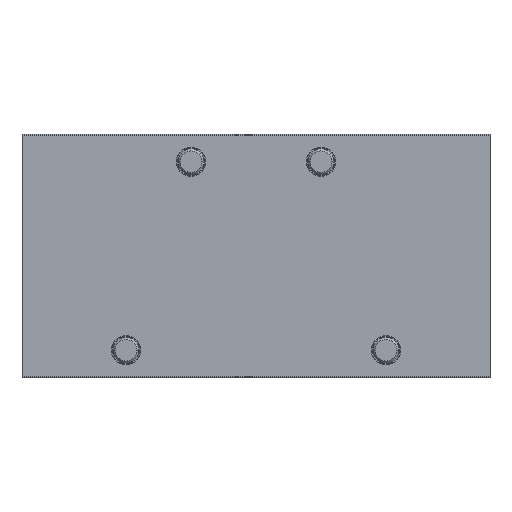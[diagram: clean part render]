
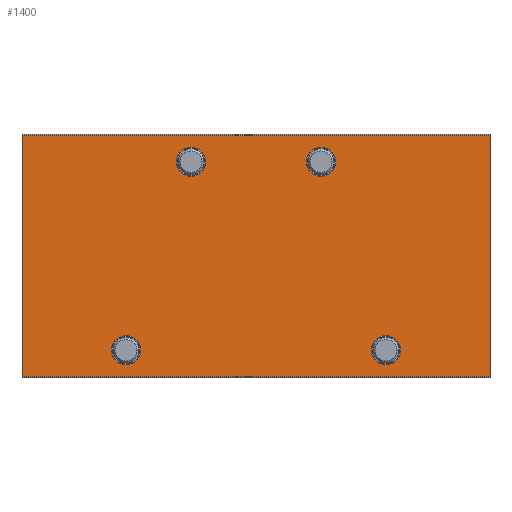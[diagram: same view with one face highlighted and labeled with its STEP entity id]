
A CAD part, front view. The second image highlights one B-rep face of the part: STEP entity #1400.
In plain terms, the highlighted planar face has unit normal (0, -1, 0).
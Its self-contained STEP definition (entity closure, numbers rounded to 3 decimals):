
#33=DIRECTION('',(0.,0.,-1.));
#34=VECTOR('',#33,74.4);
#35=CARTESIAN_POINT('',(-72.,-30.,37.2));
#36=LINE('',#35,#34);
#172=DIRECTION('',(1.,0.,0.));
#173=VECTOR('',#172,144.);
#174=CARTESIAN_POINT('',(-72.,-30.,-37.2));
#175=LINE('',#174,#173);
#176=DIRECTION('',(1.,0.,0.));
#177=VECTOR('',#176,144.);
#178=CARTESIAN_POINT('',(-72.,-30.,37.2));
#179=LINE('',#178,#177);
#180=CARTESIAN_POINT('',(-40.,-30.,-29.));
#181=DIRECTION('',(0.,1.,0.));
#182=DIRECTION('',(1.,0.,0.));
#183=AXIS2_PLACEMENT_3D('',#180,#181,#182);
#185=CARTESIAN_POINT('',(-40.,-30.,-29.));
#186=DIRECTION('',(0.,1.,0.));
#187=DIRECTION('',(-1.,0.,0.));
#188=AXIS2_PLACEMENT_3D('',#185,#186,#187);
#190=CARTESIAN_POINT('',(-20.,-30.,29.));
#191=DIRECTION('',(0.,1.,0.));
#192=DIRECTION('',(1.,0.,0.));
#193=AXIS2_PLACEMENT_3D('',#190,#191,#192);
#195=CARTESIAN_POINT('',(-20.,-30.,29.));
#196=DIRECTION('',(0.,1.,0.));
#197=DIRECTION('',(-1.,0.,0.));
#198=AXIS2_PLACEMENT_3D('',#195,#196,#197);
#200=CARTESIAN_POINT('',(40.,-30.,-29.));
#201=DIRECTION('',(0.,1.,0.));
#202=DIRECTION('',(1.,0.,0.));
#203=AXIS2_PLACEMENT_3D('',#200,#201,#202);
#205=CARTESIAN_POINT('',(40.,-30.,-29.));
#206=DIRECTION('',(0.,1.,0.));
#207=DIRECTION('',(-1.,0.,0.));
#208=AXIS2_PLACEMENT_3D('',#205,#206,#207);
#210=CARTESIAN_POINT('',(20.,-30.,29.));
#211=DIRECTION('',(0.,1.,0.));
#212=DIRECTION('',(1.,0.,0.));
#213=AXIS2_PLACEMENT_3D('',#210,#211,#212);
#215=CARTESIAN_POINT('',(20.,-30.,29.));
#216=DIRECTION('',(0.,1.,0.));
#217=DIRECTION('',(-1.,0.,0.));
#218=AXIS2_PLACEMENT_3D('',#215,#216,#217);
#275=DIRECTION('',(0.,0.,-1.));
#276=VECTOR('',#275,74.4);
#277=CARTESIAN_POINT('',(72.,-30.,37.2));
#278=LINE('',#277,#276);
#888=CARTESIAN_POINT('',(-72.,-30.,37.2));
#889=CARTESIAN_POINT('',(-72.,-30.,-37.2));
#890=VERTEX_POINT('',#888);
#891=VERTEX_POINT('',#889);
#896=CARTESIAN_POINT('',(72.,-30.,37.2));
#897=CARTESIAN_POINT('',(72.,-30.,-37.2));
#898=VERTEX_POINT('',#896);
#899=VERTEX_POINT('',#897);
#936=CARTESIAN_POINT('',(-35.5,-30.,-29.));
#937=CARTESIAN_POINT('',(-44.5,-30.,-29.));
#938=VERTEX_POINT('',#936);
#939=VERTEX_POINT('',#937);
#940=CARTESIAN_POINT('',(-15.5,-30.,29.));
#941=CARTESIAN_POINT('',(-24.5,-30.,29.));
#942=VERTEX_POINT('',#940);
#943=VERTEX_POINT('',#941);
#944=CARTESIAN_POINT('',(44.5,-30.,-29.));
#945=CARTESIAN_POINT('',(35.5,-30.,-29.));
#946=VERTEX_POINT('',#944);
#947=VERTEX_POINT('',#945);
#948=CARTESIAN_POINT('',(24.5,-30.,29.));
#949=CARTESIAN_POINT('',(15.5,-30.,29.));
#950=VERTEX_POINT('',#948);
#951=VERTEX_POINT('',#949);
#1363=CARTESIAN_POINT('',(-72.,-30.,37.2));
#1364=DIRECTION('',(0.,-1.,0.));
#1365=DIRECTION('',(0.,0.,-1.));
#1366=AXIS2_PLACEMENT_3D('',#1363,#1364,#1365);
#1367=PLANE('',#1366);
#1368=ORIENTED_EDGE('',*,*,#1165,.F.);
#1370=ORIENTED_EDGE('',*,*,#1369,.T.);
#1372=ORIENTED_EDGE('',*,*,#1371,.T.);
#1373=ORIENTED_EDGE('',*,*,#1355,.F.);
#1374=EDGE_LOOP('',(#1368,#1370,#1372,#1373));
#1375=FACE_OUTER_BOUND('',#1374,.F.);
#1377=ORIENTED_EDGE('',*,*,#1376,.F.);
#1379=ORIENTED_EDGE('',*,*,#1378,.F.);
#1380=EDGE_LOOP('',(#1377,#1379));
#1381=FACE_BOUND('',#1380,.F.);
#1383=ORIENTED_EDGE('',*,*,#1382,.F.);
#1385=ORIENTED_EDGE('',*,*,#1384,.F.);
#1386=EDGE_LOOP('',(#1383,#1385));
#1387=FACE_BOUND('',#1386,.F.);
#1389=ORIENTED_EDGE('',*,*,#1388,.F.);
#1391=ORIENTED_EDGE('',*,*,#1390,.F.);
#1392=EDGE_LOOP('',(#1389,#1391));
#1393=FACE_BOUND('',#1392,.F.);
#1395=ORIENTED_EDGE('',*,*,#1394,.F.);
#1397=ORIENTED_EDGE('',*,*,#1396,.F.);
#1398=EDGE_LOOP('',(#1395,#1397));
#1399=FACE_BOUND('',#1398,.F.);
#184=CIRCLE('',#183,4.5);
#189=CIRCLE('',#188,4.5);
#194=CIRCLE('',#193,4.5);
#199=CIRCLE('',#198,4.5);
#204=CIRCLE('',#203,4.5);
#209=CIRCLE('',#208,4.5);
#214=CIRCLE('',#213,4.5);
#219=CIRCLE('',#218,4.5);
#1165=EDGE_CURVE('',#890,#891,#36,.T.);
#1355=EDGE_CURVE('',#891,#899,#175,.T.);
#1369=EDGE_CURVE('',#890,#898,#179,.T.);
#1371=EDGE_CURVE('',#898,#899,#278,.T.);
#1376=EDGE_CURVE('',#938,#939,#184,.T.);
#1378=EDGE_CURVE('',#939,#938,#189,.T.);
#1382=EDGE_CURVE('',#942,#943,#194,.T.);
#1384=EDGE_CURVE('',#943,#942,#199,.T.);
#1388=EDGE_CURVE('',#946,#947,#204,.T.);
#1390=EDGE_CURVE('',#947,#946,#209,.T.);
#1394=EDGE_CURVE('',#950,#951,#214,.T.);
#1396=EDGE_CURVE('',#951,#950,#219,.T.);
#1400=ADVANCED_FACE('',(#1375,#1381,#1387,#1393,#1399),#1367,.T.);
